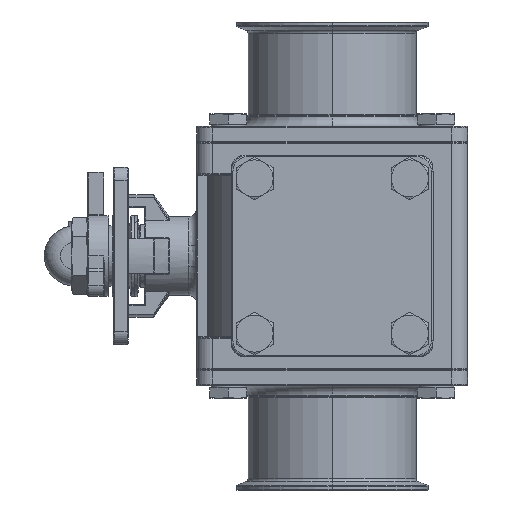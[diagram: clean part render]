
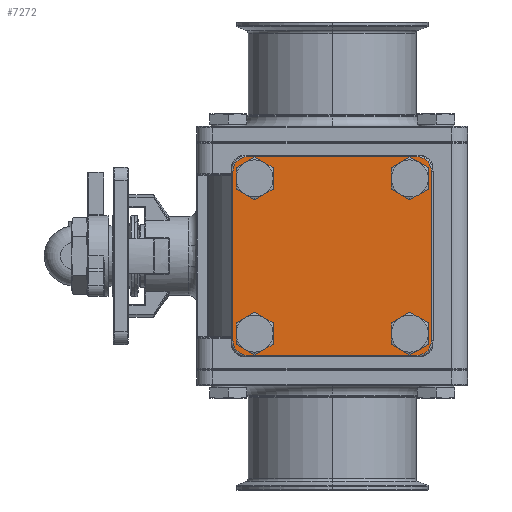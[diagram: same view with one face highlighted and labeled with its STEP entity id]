
A CAD part, left-side view. The second image highlights one B-rep face of the part: STEP entity #7272.
In plain terms, the highlighted planar face has unit normal (-1, 0, 0) as drawn and (0, 0, 1) by its records, which use the part's own axes.
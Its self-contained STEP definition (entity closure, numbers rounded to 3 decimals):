
#173 = DIRECTION ( 'NONE',  ( 1., 0., 0. ) ) ;
#577 = CARTESIAN_POINT ( 'NONE',  ( -52.5, -61.5, 10. ) ) ;
#731 = VERTEX_POINT ( 'NONE', #9382 ) ;
#1098 = ORIENTED_EDGE ( 'NONE', *, *, #24669, .F. ) ;
#1426 = CIRCLE ( 'NONE', #24327, 8.75 ) ;
#2684 = DIRECTION ( 'NONE',  ( 1., 0., 0. ) ) ;
#2835 = LINE ( 'NONE', #16447, #21545 ) ;
#2885 = AXIS2_PLACEMENT_3D ( 'NONE', #21974, #24832, #7820 ) ;
#2994 = CIRCLE ( 'NONE', #14575, 8.75 ) ;
#3133 = AXIS2_PLACEMENT_3D ( 'NONE', #23858, #15409, #4055 ) ;
#3243 = DIRECTION ( 'NONE',  ( 1., 0., 0. ) ) ;
#3288 = VERTEX_POINT ( 'NONE', #22559 ) ;
#3324 = DIRECTION ( 'NONE',  ( 0., 1., 0. ) ) ;
#3411 = FACE_BOUND ( 'NONE', #23475, .T. ) ;
#3455 = VECTOR ( 'NONE', #3324, 1000. ) ;
#3472 = DIRECTION ( 'NONE',  ( 0., 0., 1. ) ) ;
#3540 = EDGE_CURVE ( 'NONE', #21050, #9284, #22718, .T. ) ;
#4055 = DIRECTION ( 'NONE',  ( 1., 0., 0. ) ) ;
#5864 = AXIS2_PLACEMENT_3D ( 'NONE', #16787, #13813, #28070 ) ;
#5899 = CARTESIAN_POINT ( 'NONE',  ( 56.833, -48.083, 10. ) ) ;
#5928 = DIRECTION ( 'NONE',  ( 0., 0., 1. ) ) ;
#5987 = CARTESIAN_POINT ( 'NONE',  ( 39.333, 48.083, 10. ) ) ;
#6161 = DIRECTION ( 'NONE',  ( 0., 0., 1. ) ) ;
#6539 = FACE_OUTER_BOUND ( 'NONE', #35883, .T. ) ;
#6768 = ORIENTED_EDGE ( 'NONE', *, *, #36377, .T. ) ;
#7015 = CARTESIAN_POINT ( 'NONE',  ( 39.333, -48.083, 10. ) ) ;
#7065 = VECTOR ( 'NONE', #15478, 1000. ) ;
#7259 = CARTESIAN_POINT ( 'NONE',  ( -61.5, 52.5, 10. ) ) ;
#7272 = ADVANCED_FACE ( 'NONE', ( #6539, #15426, #3411, #31847, #30483 ), #29077, .T. ) ;
#7346 = VERTEX_POINT ( 'NONE', #29302 ) ;
#7400 = VECTOR ( 'NONE', #18150, 1000. ) ;
#7820 = DIRECTION ( 'NONE',  ( 1., 0., 0. ) ) ;
#8771 = VERTEX_POINT ( 'NONE', #26677 ) ;
#8861 = CARTESIAN_POINT ( 'NONE',  ( -52.5, -52.5, 10. ) ) ;
#9031 = DIRECTION ( 'NONE',  ( 1., 0., 0. ) ) ;
#9284 = VERTEX_POINT ( 'NONE', #7015 ) ;
#9382 = CARTESIAN_POINT ( 'NONE',  ( -56.833, 48.083, 10. ) ) ;
#9421 = CIRCLE ( 'NONE', #3133, 9. ) ;
#9517 = CARTESIAN_POINT ( 'NONE',  ( 48.083, -48.083, 10. ) ) ;
#10362 = CIRCLE ( 'NONE', #27099, 9. ) ;
#10636 = LINE ( 'NONE', #12739, #7065 ) ;
#10737 = DIRECTION ( 'NONE',  ( 1., 0., 0. ) ) ;
#11509 = EDGE_CURVE ( 'NONE', #9284, #21050, #31470, .T. ) ;
#11722 = DIRECTION ( 'NONE',  ( 1., 0., 0. ) ) ;
#11986 = CARTESIAN_POINT ( 'NONE',  ( 61.5, 52.5, 10. ) ) ;
#12124 = EDGE_CURVE ( 'NONE', #3288, #731, #28806, .T. ) ;
#12492 = DIRECTION ( 'NONE',  ( 1., 0., 0. ) ) ;
#12559 = EDGE_CURVE ( 'NONE', #27240, #26467, #2994, .T. ) ;
#12723 = DIRECTION ( 'NONE',  ( 0., 0., 1. ) ) ;
#12739 = CARTESIAN_POINT ( 'NONE',  ( -52.5, 61.5, 10. ) ) ;
#12975 = ORIENTED_EDGE ( 'NONE', *, *, #19202, .T. ) ;
#13193 = CARTESIAN_POINT ( 'NONE',  ( -56.833, -48.083, 10. ) ) ;
#13813 = DIRECTION ( 'NONE',  ( 0., 0., 1. ) ) ;
#13893 = VERTEX_POINT ( 'NONE', #24864 ) ;
#13926 = CIRCLE ( 'NONE', #29992, 8.75 ) ;
#14422 = ORIENTED_EDGE ( 'NONE', *, *, #23270, .F. ) ;
#14575 = AXIS2_PLACEMENT_3D ( 'NONE', #26519, #36060, #36296 ) ;
#15070 = ORIENTED_EDGE ( 'NONE', *, *, #22944, .T. ) ;
#15409 = DIRECTION ( 'NONE',  ( 0., 0., 1. ) ) ;
#15426 = FACE_BOUND ( 'NONE', #23790, .T. ) ;
#15478 = DIRECTION ( 'NONE',  ( -1., 0., 0. ) ) ;
#15494 = ORIENTED_EDGE ( 'NONE', *, *, #24025, .T. ) ;
#15851 = ORIENTED_EDGE ( 'NONE', *, *, #24457, .T. ) ;
#16001 = AXIS2_PLACEMENT_3D ( 'NONE', #20209, #5928, #173 ) ;
#16245 = EDGE_CURVE ( 'NONE', #731, #3288, #20171, .T. ) ;
#16447 = CARTESIAN_POINT ( 'NONE',  ( 52.5, -61.5, 10. ) ) ;
#16681 = AXIS2_PLACEMENT_3D ( 'NONE', #17357, #6161, #9031 ) ;
#16787 = CARTESIAN_POINT ( 'NONE',  ( -48.083, -48.083, 10. ) ) ;
#16939 = EDGE_CURVE ( 'NONE', #7346, #33881, #23500, .T. ) ;
#17187 = DIRECTION ( 'NONE',  ( 1., 0., 0. ) ) ;
#17357 = CARTESIAN_POINT ( 'NONE',  ( 48.083, -48.083, 10. ) ) ;
#18150 = DIRECTION ( 'NONE',  ( 0., -1., 0. ) ) ;
#18435 = DIRECTION ( 'NONE',  ( 1., 0., 0. ) ) ;
#18827 = VERTEX_POINT ( 'NONE', #13193 ) ;
#19202 = EDGE_CURVE ( 'NONE', #33881, #8771, #32212, .T. ) ;
#19706 = ORIENTED_EDGE ( 'NONE', *, *, #12124, .F. ) ;
#20171 = CIRCLE ( 'NONE', #30644, 8.75 ) ;
#20209 = CARTESIAN_POINT ( 'NONE',  ( 52.5, 52.5, 10. ) ) ;
#20354 = CARTESIAN_POINT ( 'NONE',  ( 61.5, 52.5, 10. ) ) ;
#20393 = CARTESIAN_POINT ( 'NONE',  ( 52.5, -52.5, 10. ) ) ;
#20430 = ORIENTED_EDGE ( 'NONE', *, *, #3540, .F. ) ;
#20793 = ORIENTED_EDGE ( 'NONE', *, *, #25689, .T. ) ;
#20822 = VERTEX_POINT ( 'NONE', #30345 ) ;
#21050 = VERTEX_POINT ( 'NONE', #5899 ) ;
#21249 = ORIENTED_EDGE ( 'NONE', *, *, #24403, .F. ) ;
#21545 = VECTOR ( 'NONE', #10737, 1000. ) ;
#21614 = LINE ( 'NONE', #29543, #7400 ) ;
#21974 = CARTESIAN_POINT ( 'NONE',  ( -48.083, 48.083, 10. ) ) ;
#22115 = EDGE_LOOP ( 'NONE', ( #34309, #19706 ) ) ;
#22559 = CARTESIAN_POINT ( 'NONE',  ( -39.333, 48.083, 10. ) ) ;
#22718 = CIRCLE ( 'NONE', #25655, 8.75 ) ;
#22733 = CARTESIAN_POINT ( 'NONE',  ( 48.083, 48.083, 10. ) ) ;
#22788 = CARTESIAN_POINT ( 'NONE',  ( -48.083, -48.083, 10. ) ) ;
#22944 = EDGE_CURVE ( 'NONE', #35543, #24003, #2835, .T. ) ;
#23270 = EDGE_CURVE ( 'NONE', #28951, #18827, #26393, .T. ) ;
#23475 = EDGE_LOOP ( 'NONE', ( #1098, #25025 ) ) ;
#23500 = LINE ( 'NONE', #20354, #3455 ) ;
#23790 = EDGE_LOOP ( 'NONE', ( #21249, #14422 ) ) ;
#23858 = CARTESIAN_POINT ( 'NONE',  ( 52.5, -52.5, 10. ) ) ;
#24003 = VERTEX_POINT ( 'NONE', #33915 ) ;
#24025 = EDGE_CURVE ( 'NONE', #20822, #29403, #10362, .T. ) ;
#24287 = DIRECTION ( 'NONE',  ( 0., 0., 1. ) ) ;
#24327 = AXIS2_PLACEMENT_3D ( 'NONE', #22733, #30750, #2684 ) ;
#24403 = EDGE_CURVE ( 'NONE', #18827, #28951, #13926, .T. ) ;
#24457 = EDGE_CURVE ( 'NONE', #13893, #35543, #31681, .T. ) ;
#24669 = EDGE_CURVE ( 'NONE', #26467, #27240, #1426, .T. ) ;
#24832 = DIRECTION ( 'NONE',  ( 0., 0., 1. ) ) ;
#24864 = CARTESIAN_POINT ( 'NONE',  ( -61.5, -52.5, 10. ) ) ;
#25025 = ORIENTED_EDGE ( 'NONE', *, *, #12559, .F. ) ;
#25655 = AXIS2_PLACEMENT_3D ( 'NONE', #9517, #12723, #12492 ) ;
#25689 = EDGE_CURVE ( 'NONE', #24003, #7346, #9421, .T. ) ;
#26110 = ORIENTED_EDGE ( 'NONE', *, *, #11509, .F. ) ;
#26393 = CIRCLE ( 'NONE', #5864, 8.75 ) ;
#26467 = VERTEX_POINT ( 'NONE', #5987 ) ;
#26519 = CARTESIAN_POINT ( 'NONE',  ( 48.083, 48.083, 10. ) ) ;
#26677 = CARTESIAN_POINT ( 'NONE',  ( 52.5, 61.5, 10. ) ) ;
#27099 = AXIS2_PLACEMENT_3D ( 'NONE', #34041, #34165, #28501 ) ;
#27240 = VERTEX_POINT ( 'NONE', #27296 ) ;
#27296 = CARTESIAN_POINT ( 'NONE',  ( 56.833, 48.083, 10. ) ) ;
#27769 = CARTESIAN_POINT ( 'NONE',  ( -39.333, -48.083, 10. ) ) ;
#28070 = DIRECTION ( 'NONE',  ( 1., 0., 0. ) ) ;
#28338 = DIRECTION ( 'NONE',  ( 0., 0., 1. ) ) ;
#28501 = DIRECTION ( 'NONE',  ( 1., 0., 0. ) ) ;
#28806 = CIRCLE ( 'NONE', #2885, 8.75 ) ;
#28951 = VERTEX_POINT ( 'NONE', #27769 ) ;
#29077 = PLANE ( 'NONE',  #32159 ) ;
#29302 = CARTESIAN_POINT ( 'NONE',  ( 61.5, -52.5, 10. ) ) ;
#29403 = VERTEX_POINT ( 'NONE', #7259 ) ;
#29514 = AXIS2_PLACEMENT_3D ( 'NONE', #8861, #30539, #11722 ) ;
#29543 = CARTESIAN_POINT ( 'NONE',  ( -61.5, -52.5, 10. ) ) ;
#29992 = AXIS2_PLACEMENT_3D ( 'NONE', #22788, #28338, #17187 ) ;
#30345 = CARTESIAN_POINT ( 'NONE',  ( -52.5, 61.5, 10. ) ) ;
#30483 = FACE_BOUND ( 'NONE', #22115, .T. ) ;
#30539 = DIRECTION ( 'NONE',  ( 0., 0., 1. ) ) ;
#30644 = AXIS2_PLACEMENT_3D ( 'NONE', #35641, #24287, #18435 ) ;
#30750 = DIRECTION ( 'NONE',  ( 0., 0., 1. ) ) ;
#31470 = CIRCLE ( 'NONE', #16681, 8.75 ) ;
#31681 = CIRCLE ( 'NONE', #29514, 9. ) ;
#31847 = FACE_BOUND ( 'NONE', #33222, .T. ) ;
#32159 = AXIS2_PLACEMENT_3D ( 'NONE', #20393, #3472, #3243 ) ;
#32212 = CIRCLE ( 'NONE', #16001, 9. ) ;
#32518 = ORIENTED_EDGE ( 'NONE', *, *, #34472, .T. ) ;
#33222 = EDGE_LOOP ( 'NONE', ( #26110, #20430 ) ) ;
#33881 = VERTEX_POINT ( 'NONE', #11986 ) ;
#33915 = CARTESIAN_POINT ( 'NONE',  ( 52.5, -61.5, 10. ) ) ;
#34041 = CARTESIAN_POINT ( 'NONE',  ( -52.5, 52.5, 10. ) ) ;
#34165 = DIRECTION ( 'NONE',  ( 0., 0., 1. ) ) ;
#34309 = ORIENTED_EDGE ( 'NONE', *, *, #16245, .F. ) ;
#34342 = ORIENTED_EDGE ( 'NONE', *, *, #16939, .T. ) ;
#34472 = EDGE_CURVE ( 'NONE', #8771, #20822, #10636, .T. ) ;
#35543 = VERTEX_POINT ( 'NONE', #577 ) ;
#35641 = CARTESIAN_POINT ( 'NONE',  ( -48.083, 48.083, 10. ) ) ;
#35883 = EDGE_LOOP ( 'NONE', ( #34342, #12975, #32518, #15494, #6768, #15851, #15070, #20793 ) ) ;
#36060 = DIRECTION ( 'NONE',  ( 0., 0., 1. ) ) ;
#36296 = DIRECTION ( 'NONE',  ( 1., 0., 0. ) ) ;
#36377 = EDGE_CURVE ( 'NONE', #29403, #13893, #21614, .T. ) ;
